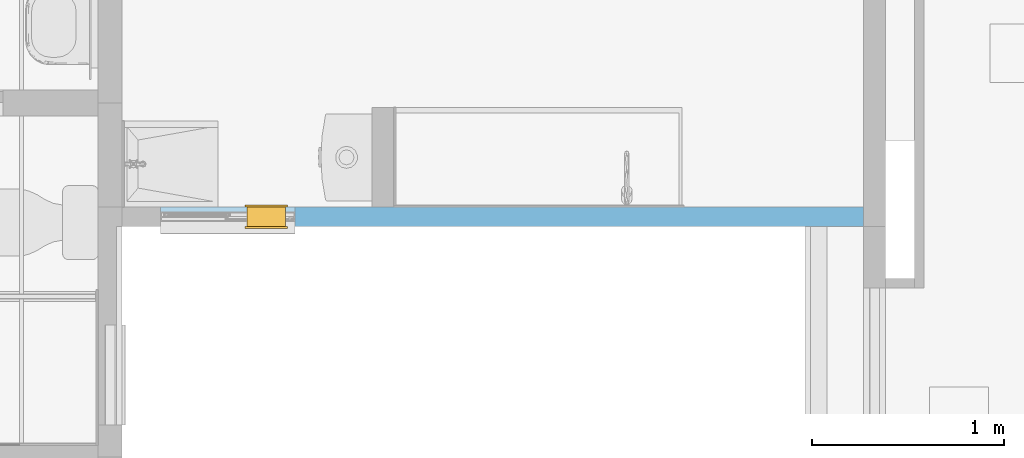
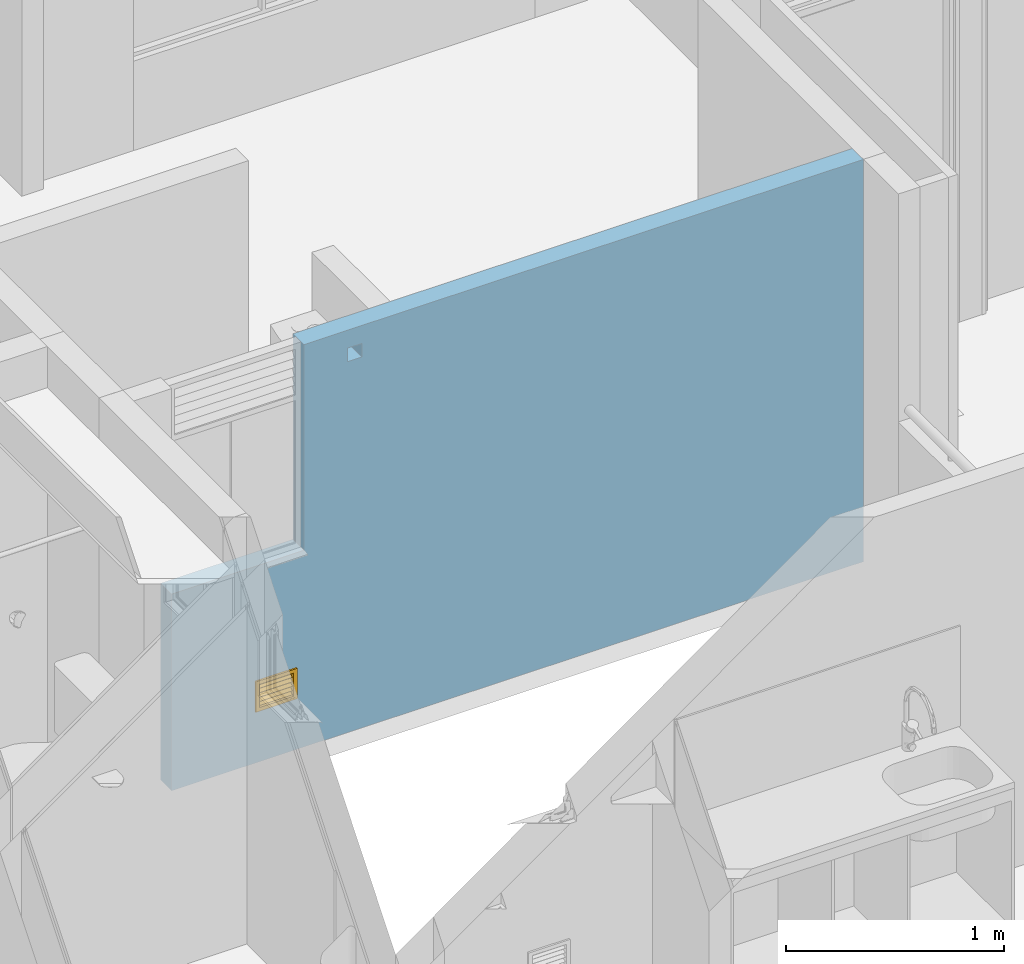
# One storey, part 10 of 51: 1 window, 3 openings, plus 1 element that does not belong to this part.
"""IFC4 building model written with IfcOpenShell, lengths in metres."""

import ifcopenshell
import ifcopenshell.guid

model = None  # the IFC model being written
_history = None  # IfcOwnerHistory: only IFC2X3 demands one
_inside = {}  # id of a spatial element -> (the spatial element, [elements in it])
_under = {}  # id of a project, library or spatial element -> (it, [spatial elements below it])
_declared = {}  # id of a project -> (the project, [libraries it declares])
_typed = {}  # id of a type object -> (the type object, [elements of that type])
_made_of = {}  # id of a material, layer set ... -> (it, [elements and type objects made of it])


def new_model(schema):
    """Start an empty IFC model of exactly this schema.

    Asked for "IFC4X3", IfcOpenShell would pick the latest addendum, in which some entities
    have other attributes; the version numbers below select the first issue.
    IFC2X3 requires an IfcOwnerHistory on every rooted entity: one is made here for all.
    """
    global model, _history
    if schema == "IFC4X3":
        model = ifcopenshell.file(schema_version=(4, 3, 0, 0))
    else:
        model = ifcopenshell.file(schema=schema)
    _inside.clear()
    _under.clear()
    _declared.clear()
    _typed.clear()
    _made_of.clear()
    _history = None
    if model.schema == "IFC2X3":
        org = make("IfcOrganization", Name="unknown")
        user = make(
            "IfcPersonAndOrganization",
            ThePerson=make("IfcPerson", FamilyName="unknown"),
            TheOrganization=org,
        )
        app = make(
            "IfcApplication",
            ApplicationDeveloper=org,
            Version="unknown",
            ApplicationFullName="unknown",
            ApplicationIdentifier="unknown",
        )
        _history = make(
            "IfcOwnerHistory",
            OwningUser=user,
            OwningApplication=app,
            ChangeAction="ADDED",
            CreationDate=0,
        )
    return model


def make(cls, **values):
    """One entity of the class cls with the attributes given. An attribute that is None is left unset."""
    return model.create_entity(
        cls, **{name: value for name, value in values.items() if value is not None}
    )


def entity(cls, *values):
    """Any entity or typed value of the class cls, its attributes in the order of the schema. None: left unset."""
    e = model.create_entity(cls)
    for i, value in enumerate(values):
        if value is not None:
            e[i] = value
    return e


def rooted(cls, **values):
    """An entity with a GlobalId (a new one), such as an element, a storey or a relation."""
    return make(cls, GlobalId=ifcopenshell.guid.new(), OwnerHistory=_history, **values)


def si_unit(unit_type, name, prefix=None):
    """IfcSIUnit, for example si_unit("LENGTHUNIT", "METRE", prefix="MILLI")."""
    return make("IfcSIUnit", UnitType=unit_type, Prefix=prefix, Name=name)


def converted_unit(unit_type, name, factor, base, dimensions=None, offset=None):
    """IfcConversionBasedUnit, such as the inch: factor (a typed value) times the base unit."""
    return make(
        "IfcConversionBasedUnit"
        if offset is None
        else "IfcConversionBasedUnitWithOffset",
        ConversionOffset=offset,
        Dimensions=None
        if dimensions is None
        else entity("IfcDimensionalExponents", *dimensions),
        UnitType=unit_type,
        Name=name,
        ConversionFactor=make(
            "IfcMeasureWithUnit", ValueComponent=factor, UnitComponent=base
        ),
    )


def derived_unit(unit_type, elements):
    """IfcDerivedUnit: a product of units, each with its exponent."""
    return make(
        "IfcDerivedUnit",
        Elements=[
            make("IfcDerivedUnitElement", Unit=unit, Exponent=power)
            for unit, power in elements
        ],
        UnitType=unit_type,
    )


def assignment(units):
    """IfcUnitAssignment: the units of a project."""
    return None if units is None else make("IfcUnitAssignment", Units=units)


def point(xyz):
    """IfcCartesianPoint."""
    return None if xyz is None else make("IfcCartesianPoint", Coordinates=xyz)


def direction(xyz):
    """IfcDirection."""
    return None if xyz is None else make("IfcDirection", DirectionRatios=xyz)


def frame(location, z_axis=None, x_axis=None):
    """IfcAxis2Placement3D, a coordinate frame: its origin and axes. An axis left out is left unset."""
    return make(
        "IfcAxis2Placement3D",
        Location=point(location),
        Axis=direction(z_axis),
        RefDirection=direction(x_axis),
    )


def origin():
    """The frame at (0, 0, 0) with its axes left unset."""
    return frame((0.0, 0.0, 0.0))


def place(relative_to, where):
    """IfcLocalPlacement: puts the frame where relative to a parent placement (None: the world)."""
    return make(
        "IfcLocalPlacement", PlacementRelTo=relative_to, RelativePlacement=where
    )


def context(
    kind, dimensions, precision=None, world=None, true_north=None, identifier=None
):
    """IfcGeometricRepresentationContext, for example the 3D "Model" context."""
    return make(
        "IfcGeometricRepresentationContext",
        ContextIdentifier=identifier,
        ContextType=kind,
        CoordinateSpaceDimension=dimensions,
        Precision=precision,
        WorldCoordinateSystem=world,
        TrueNorth=true_north,
    )


def subcontext(parent, identifier, kind, view, scale=None):
    """IfcGeometricRepresentationSubContext, for example "Body" below "Model"."""
    return make(
        "IfcGeometricRepresentationSubContext",
        ContextIdentifier=identifier,
        ContextType=kind,
        ParentContext=parent,
        TargetScale=scale,
        TargetView=view,
    )


def project(units=None, contexts=None):
    """IfcProject with its units and contexts."""
    return rooted(
        "IfcProject",
        Name="project",
        RepresentationContexts=contexts,
        UnitsInContext=assignment(units),
    )


def spatial(cls, under=None, at=None, **own):
    """A site, building, storey or space (cls), placed at a placement, below another one or the project."""
    s = rooted(cls, ObjectPlacement=at, **own)
    if under is not None:
        _under.setdefault(under.id(), (under, []))[1].append(s)
    return s


def point_list(points):
    """IfcCartesianPointList2D or 3D."""
    cls = (
        "IfcCartesianPointList2D" if len(points[0]) == 2 else "IfcCartesianPointList3D"
    )
    return make(cls, CoordList=points)


def indexed_curve(points, segments=None, self_intersect=None):
    """IfcIndexedPolyCurve: lines and arcs through numbered points (the first is 1)."""
    return make(
        "IfcIndexedPolyCurve",
        Points=point_list(points),
        Segments=segments,
        SelfIntersect=self_intersect,
    )


def outline(outer, holes=None, kind="AREA"):
    """IfcArbitraryClosedProfileDef: a profile drawn as a closed curve; with holes, ...WithVoids."""
    if holes is None:
        return make("IfcArbitraryClosedProfileDef", ProfileType=kind, OuterCurve=outer)
    return make(
        "IfcArbitraryProfileDefWithVoids",
        ProfileType=kind,
        OuterCurve=outer,
        InnerCurves=holes,
    )


def extrude(swept, where, along, depth):
    """IfcExtrudedAreaSolid: the profile swept, set in the frame where, extruded along a direction by depth."""
    return make(
        "IfcExtrudedAreaSolid",
        SweptArea=swept,
        Position=where,
        ExtrudedDirection=direction(along),
        Depth=depth,
    )


def polygons(points, faces, closed=None, point_numbers=None):
    """IfcPolygonalFaceSet: a face is its outer loop, then its inner loops; points numbered from 1."""
    made = []
    for loops in faces:
        if len(loops) == 1:
            made.append(make("IfcIndexedPolygonalFace", CoordIndex=loops[0]))
        else:
            made.append(
                make(
                    "IfcIndexedPolygonalFaceWithVoids",
                    CoordIndex=loops[0],
                    InnerCoordIndices=loops[1:],
                )
            )
    return make(
        "IfcPolygonalFaceSet",
        Coordinates=point_list(points),
        Closed=closed,
        Faces=made,
        PnIndex=point_numbers,
    )


def shape(context_of_items, identifier, shape_type, items):
    """IfcShapeRepresentation: the items that make up one representation, for example the "Body"."""
    return make(
        "IfcShapeRepresentation",
        ContextOfItems=context_of_items,
        RepresentationIdentifier=identifier,
        RepresentationType=shape_type,
        Items=items,
    )


def source(mapping_origin, context_of_items, identifier, shape_type, items):
    """IfcRepresentationMap: a shape defined once, which mapped items show again and again."""
    return make(
        "IfcRepresentationMap",
        MappingOrigin=mapping_origin,
        MappedRepresentation=shape(context_of_items, identifier, shape_type, items),
    )


def transform(
    local_origin,
    x_axis=None,
    y_axis=None,
    z_axis=None,
    scale=None,
    scale2=None,
    scale3=None,
    uniform=True,
):
    """IfcCartesianTransformationOperator3D, or its non-uniform kind. x_axis, y_axis, z_axis: its Axis1, 2, 3."""
    if uniform:
        return make(
            "IfcCartesianTransformationOperator3D",
            Axis1=direction(x_axis),
            Axis2=direction(y_axis),
            LocalOrigin=point(local_origin),
            Scale=scale,
            Axis3=direction(z_axis),
        )
    return make(
        "IfcCartesianTransformationOperator3DnonUniform",
        Axis1=direction(x_axis),
        Axis2=direction(y_axis),
        LocalOrigin=point(local_origin),
        Scale=scale,
        Axis3=direction(z_axis),
        Scale2=scale2,
        Scale3=scale3,
    )


def mapped(mapping_source, mapping_target):
    """IfcMappedItem: shows the shape of a source again, moved by a transform."""
    return make(
        "IfcMappedItem", MappingSource=mapping_source, MappingTarget=mapping_target
    )


def material(Name=None, Category=None):
    """IfcMaterial."""
    return make("IfcMaterial", Name=Name, Category=Category)


def constituent(of_material, Name=None, Category=None, fraction=None):
    """IfcMaterialConstituent: one of the materials an element consists of."""
    return make(
        "IfcMaterialConstituent",
        Name=Name,
        Material=of_material,
        Fraction=fraction,
        Category=Category,
    )


def constituent_set(constituents=None, Name=None):
    """IfcMaterialConstituentSet."""
    return make(
        "IfcMaterialConstituentSet", Name=Name, MaterialConstituents=constituents
    )


def made_of(thing, what):
    """Note that an element or type object is made of a material, layer set ...; save() writes the relation."""
    if what is not None:
        _made_of.setdefault(what.id(), (what, []))[1].append(thing)
    return thing


def type_object(cls, material=None, **own):
    """A type object (cls), such as IfcWallType, which elements share."""
    return made_of(rooted(cls, **own), material)


def type_shapes(of_type, sources):
    """Give a type object the sources (RepresentationMaps) that its elements show as mapped items."""
    of_type.RepresentationMaps = sources


def element(
    cls,
    number,
    at=None,
    inside=None,
    cuts=None,
    type_object=None,
    material=None,
    context=None,
    identifier="Body",
    shape_type=None,
    held_by="IfcProductDefinitionShape",
    body=None,
    shapes=None,
    **own,
):
    """One element of the class cls, such as IfcWall. Its Tag is "e" and its number.

    at: its placement. inside: the storey or other place that contains it. cuts: it is an
    opening in that element (IfcRelVoidsElement). A single representation is given by context,
    identifier, shape_type and body (its items); several are given by shapes. held_by: the class
    of the entity that holds the representations. save() writes the other relations.
    """
    e = rooted(cls, Tag="e%d" % number, ObjectPlacement=at, **own)
    if body is not None:
        shapes = [shape(context, identifier, shape_type, body)]
    if shapes is not None:
        e.Representation = make(held_by, Representations=shapes)
    if inside is not None:
        _inside.setdefault(inside.id(), (inside, []))[1].append(e)
    if cuts is not None:
        rooted(
            "IfcRelVoidsElement", RelatingBuildingElement=cuts, RelatedOpeningElement=e
        )
    if type_object is not None:
        _typed.setdefault(type_object.id(), (type_object, []))[1].append(e)
    return made_of(e, material)


def fill(opening, filler):
    """IfcRelFillsElement: the door or window that sits in an opening."""
    return rooted(
        "IfcRelFillsElement",
        RelatingOpeningElement=opening,
        RelatedBuildingElement=filler,
    )


def aggregate(whole, parts):
    """IfcRelAggregates: a whole, such as a stair, and the parts it consists of."""
    return rooted("IfcRelAggregates", RelatingObject=whole, RelatedObjects=parts)


def save(model, path):
    """Write the relations noted so far, then the file.

    IfcRelAggregates (storeys below a building ...), IfcRelContainedInSpatialStructure (elements
    in a storey), IfcRelDefinesByType, IfcRelAssociatesMaterial and IfcRelDeclares: one each for
    every whole, place, type object, material and project.
    """
    for whole, parts in _under.values():
        aggregate(whole, parts)
    for where, things in _inside.values():
        rooted(
            "IfcRelContainedInSpatialStructure",
            RelatedElements=things,
            RelatingStructure=where,
        )
    for kind, things in _typed.values():
        rooted("IfcRelDefinesByType", RelatedObjects=things, RelatingType=kind)
    for what, things in _made_of.values():
        rooted("IfcRelAssociatesMaterial", RelatedObjects=things, RelatingMaterial=what)
    for by, libraries in _declared.values():
        rooted("IfcRelDeclares", RelatingContext=by, RelatedDefinitions=libraries)
    model.write(path)


model = new_model("IFC4")

# Units and contexts
model_context = context("Model", 3, precision=1e-05, world=origin(), true_north=direction((6.123031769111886e-17, 1.0)))
body_context = subcontext(model_context, "Body", "Model", "MODEL_VIEW")
ifc_project = project(units=[si_unit("LENGTHUNIT", "METRE"), si_unit("AREAUNIT", "SQUARE_METRE"), si_unit("VOLUMEUNIT", "CUBIC_METRE"), converted_unit("PLANEANGLEUNIT", "DEGREE", entity("IfcRatioMeasure", 0.017453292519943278), si_unit("PLANEANGLEUNIT", "RADIAN"), dimensions=[0, 0, 0, 0, 0, 0, 0]), si_unit("MASSUNIT", "GRAM", prefix="KILO"), derived_unit("MASSDENSITYUNIT", [(si_unit("MASSUNIT", "GRAM", prefix="KILO"), 1), (si_unit("LENGTHUNIT", "METRE"), -3)]), derived_unit("IONCONCENTRATIONUNIT", [(si_unit("MASSUNIT", "GRAM", prefix="KILO"), 1), (si_unit("LENGTHUNIT", "METRE"), -3)]), derived_unit("MOMENTOFINERTIAUNIT", [(si_unit("LENGTHUNIT", "METRE"), 4)]), si_unit("TIMEUNIT", "SECOND"), si_unit("FREQUENCYUNIT", "HERTZ"), si_unit("THERMODYNAMICTEMPERATUREUNIT", "DEGREE_CELSIUS"), derived_unit("THERMALTRANSMITTANCEUNIT", [(si_unit("MASSUNIT", "GRAM", prefix="KILO"), 1), (si_unit("THERMODYNAMICTEMPERATUREUNIT", "KELVIN"), -1), (si_unit("TIMEUNIT", "SECOND"), -3)]), derived_unit("THERMALCONDUCTANCEUNIT", [(si_unit("MASSUNIT", "GRAM", prefix="KILO"), 1), (si_unit("THERMODYNAMICTEMPERATUREUNIT", "KELVIN"), -1), (si_unit("TIMEUNIT", "SECOND"), -3), (si_unit("LENGTHUNIT", "METRE"), 1)]), derived_unit("VOLUMETRICFLOWRATEUNIT", [(si_unit("LENGTHUNIT", "METRE"), 3), (si_unit("TIMEUNIT", "SECOND"), -1)]), derived_unit("MASSFLOWRATEUNIT", [(si_unit("MASSUNIT", "GRAM", prefix="KILO"), 1), (si_unit("TIMEUNIT", "SECOND"), -1)]), derived_unit("ROTATIONALFREQUENCYUNIT", [(si_unit("TIMEUNIT", "SECOND"), -1)]), si_unit("ELECTRICCURRENTUNIT", "AMPERE"), si_unit("ELECTRICVOLTAGEUNIT", "VOLT"), si_unit("POWERUNIT", "WATT"), si_unit("FORCEUNIT", "NEWTON", prefix="KILO"), si_unit("ILLUMINANCEUNIT", "LUX"), si_unit("LUMINOUSFLUXUNIT", "LUMEN"), si_unit("LUMINOUSINTENSITYUNIT", "CANDELA"), derived_unit("USERDEFINED", [(si_unit("MASSUNIT", "GRAM", prefix="KILO"), -1), (si_unit("LENGTHUNIT", "METRE"), -2), (si_unit("TIMEUNIT", "SECOND"), 3), (si_unit("LUMINOUSFLUXUNIT", "LUMEN"), 1)]), derived_unit("USERDEFINED", [(si_unit("MASSUNIT", "GRAM", prefix="KILO"), 1), (si_unit("TIMEUNIT", "SECOND"), -3), (si_unit("LENGTHUNIT", "METRE"), 3), (si_unit("ELECTRICCURRENTUNIT", "AMPERE"), -2)]), derived_unit("SOUNDPOWERUNIT", [(si_unit("MASSUNIT", "GRAM", prefix="KILO"), 1), (si_unit("TIMEUNIT", "SECOND"), -3), (si_unit("LENGTHUNIT", "METRE"), 2)]), derived_unit("SOUNDPRESSUREUNIT", [(si_unit("MASSUNIT", "GRAM", prefix="KILO"), 1), (si_unit("LENGTHUNIT", "METRE"), -1), (si_unit("TIMEUNIT", "SECOND"), -2)]), derived_unit("LINEARVELOCITYUNIT", [(si_unit("LENGTHUNIT", "METRE"), 1), (si_unit("TIMEUNIT", "SECOND"), -1)]), si_unit("PRESSUREUNIT", "PASCAL"), derived_unit("USERDEFINED", [(si_unit("MASSUNIT", "GRAM", prefix="KILO"), 1), (si_unit("LENGTHUNIT", "METRE"), -2), (si_unit("TIMEUNIT", "SECOND"), -2)]), derived_unit("LINEARFORCEUNIT", [(si_unit("MASSUNIT", "GRAM", prefix="KILO"), 1), (si_unit("TIMEUNIT", "SECOND"), -2)]), derived_unit("PLANARFORCEUNIT", [(si_unit("MASSUNIT", "GRAM", prefix="KILO"), 1), (si_unit("LENGTHUNIT", "METRE"), -1), (si_unit("TIMEUNIT", "SECOND"), -2)]), derived_unit("SPECIFICHEATCAPACITYUNIT", [(si_unit("THERMODYNAMICTEMPERATUREUNIT", "KELVIN"), -1), (si_unit("LENGTHUNIT", "METRE"), 2), (si_unit("TIMEUNIT", "SECOND"), -2)]), derived_unit("HEATINGVALUEUNIT", [(si_unit("LENGTHUNIT", "METRE"), 2), (si_unit("TIMEUNIT", "SECOND"), -2)]), derived_unit("VAPORPERMEABILITYUNIT", [(si_unit("LENGTHUNIT", "METRE"), -1), (si_unit("TIMEUNIT", "SECOND"), 1)]), derived_unit("DYNAMICVISCOSITYUNIT", [(si_unit("MASSUNIT", "GRAM", prefix="KILO"), 1), (si_unit("TIMEUNIT", "SECOND"), -1), (si_unit("LENGTHUNIT", "METRE"), -1)]), derived_unit("THERMALEXPANSIONCOEFFICIENTUNIT", [(si_unit("THERMODYNAMICTEMPERATUREUNIT", "KELVIN"), -1)]), derived_unit("MODULUSOFELASTICITYUNIT", [(si_unit("MASSUNIT", "GRAM", prefix="KILO"), 1), (si_unit("LENGTHUNIT", "METRE"), -1), (si_unit("TIMEUNIT", "SECOND"), -2)]), derived_unit("ISOTHERMALMOISTURECAPACITYUNIT", [(si_unit("LENGTHUNIT", "METRE"), 3), (si_unit("MASSUNIT", "GRAM", prefix="KILO"), -1)]), derived_unit("MOISTUREDIFFUSIVITYUNIT", [(si_unit("TIMEUNIT", "SECOND"), -1), (si_unit("LENGTHUNIT", "METRE"), 2)])], contexts=[model_context])

# Site, building, storey
site_placement = place(None, origin())
site = spatial("IfcSite", under=ifc_project, at=site_placement, Name="Default", CompositionType="ELEMENT")
building_placement = place(site_placement, origin())
building = spatial("IfcBuilding", under=site, at=building_placement, CompositionType="ELEMENT")
storey_placement = place(building_placement, frame((0.0, 0.0, 2.350000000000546)))
storey = spatial("IfcBuildingStorey", under=building, at=storey_placement, Name="Nivel 2", CompositionType="ELEMENT", Elevation=2.350000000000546)

# Wall, openings, window
ifc_material_1 = material(Name="PINTURA BLANCA PARA EXTERIORES", Category="Materials")
ifc_constituent_1 = constituent(ifc_material_1, Name="PINTURA BLANCA PARA EXTERIORES", Category="Materials")
ifc_material_2 = material(Name="Concreto (Aire)", Category="Materials")
ifc_constituent_2 = constituent(ifc_material_2, Name="Concreto (Aire)", Category="Materials")
ifc_constituent_set_1 = constituent_set(constituents=[ifc_constituent_1, ifc_constituent_2], Name="Basic Wall:B2010 - 0.10m - MI Concreto- Concreto+repello+ pintura blanca")
wall_type = type_object("IfcWallType", Name="Basic Wall:B2010 - 0.10m - MI Concreto- Concreto+repello+ pintura blanca", PredefinedType="STANDARD", material=ifc_constituent_set_1)
wall_placement = place(storey_placement, frame((7.947500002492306, -5.175000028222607, 0.0), z_axis=(0.0, 0.0, 1.0), x_axis=(-1.0, 0.0, 0.0)))
wall = element("IfcWall", 1, at=wall_placement, inside=storey, type_object=wall_type, material=ifc_constituent_set_1, Name="Basic Wall:B2010 - 0.10m - MI Concreto- Concreto+repello+ pintura blanca", ObjectType="Basic Wall:B2010 - 0.10m - MI Concreto- Concreto+repello+ pintura blanca", PredefinedType="NOTDEFINED", context=body_context, shape_type="SweptSolid", body=[
    extrude(outline(indexed_curve([(-0.8374999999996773, -1.943125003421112), (0.2624999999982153, -1.943125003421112), (0.2624999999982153, -1.2431250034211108), (1.4125000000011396, -1.2431250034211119), (1.4125000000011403, 1.716875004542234), (-0.8374999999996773, 1.716875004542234), (-0.8374999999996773, 1.5268750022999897), (-0.8374999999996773, 1.41187500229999), (-0.8374999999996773, -1.943125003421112)], self_intersect=False), holes=[indexed_curve([(-0.5374999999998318, -1.2931250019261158), (-0.38749999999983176, -1.2931250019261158), (-0.38749999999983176, -1.4931250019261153), (-0.5374999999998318, -1.4931250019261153), (-0.5374999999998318, -1.2931250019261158)], self_intersect=False), indexed_curve([(1.3125000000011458, -0.9368875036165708), (1.3125000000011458, -1.012887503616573), (1.236500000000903, -1.012887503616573), (1.236500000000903, -0.9368875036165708), (1.3125000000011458, -0.9368875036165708)], self_intersect=False)]), frame((1.7168750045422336, 0.050500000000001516, 0.837499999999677), z_axis=(0.0, -1.0, 0.0), x_axis=(0.0, 0.0, 1.0)), (0.0, 0.0, 1.0), 0.0010000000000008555),
    extrude(outline(indexed_curve([(-0.7533333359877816, -1.1333333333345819), (2.2066666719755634, -1.1333333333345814), (2.2066666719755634, 1.1166666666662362), (-1.4533333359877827, 1.1166666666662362), (-1.4533333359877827, 0.01666666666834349), (-0.7533333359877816, 0.01666666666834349), (-0.7533333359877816, -1.1333333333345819)], self_intersect=False), holes=[indexed_curve([(-0.4470958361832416, -1.0333333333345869), (-0.5230958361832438, -1.0333333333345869), (-0.5230958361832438, -0.9573333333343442), (-0.4470958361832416, -0.9573333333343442), (-0.4470958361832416, -1.0333333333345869)], self_intersect=False), indexed_curve([(-0.8033333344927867, 0.6666666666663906), (-1.0033333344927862, 0.6666666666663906), (-1.0033333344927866, 0.8166666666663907), (-0.8033333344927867, 0.8166666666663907), (-0.8033333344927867, 0.6666666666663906)], self_intersect=False)]), frame((2.2066666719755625, 0.04949999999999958, 1.1166666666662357), z_axis=(0.0, -1.0, 0.0), x_axis=(-1.0, 0.0, 0.0)), (0.0, 0.0, 1.0), 0.09999999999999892),
])
opening_1_placement = place(wall_placement, origin())
element("IfcOpeningElement", 2, at=opening_1_placement, cuts=wall, Name="Basic Wall:B2010 - 0.10m - MI Concreto- Concreto+repello+ pintura blanca", PredefinedType="OPENING", context=body_context, shape_type="SweptSolid", body=[
    extrude(outline(indexed_curve([(-0.03800000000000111, -0.038000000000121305), (0.03800000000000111, -0.038000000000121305), (0.03800000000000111, 0.038000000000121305), (-0.03800000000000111, 0.038000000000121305), (-0.03800000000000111, -0.038000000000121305)], self_intersect=False)), frame((2.6917625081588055, 0.05050000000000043, 2.1120000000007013), z_axis=(0.0, -1.0, 0.0), x_axis=(1.0, 0.0, 0.0)), (0.0, 0.0, 1.0), 0.10100000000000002),
])
opening_2_placement = place(wall_placement, frame((2.9600000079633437, -0.05050000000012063, 1.099999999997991)))
element("IfcOpeningElement", 3, at=opening_2_placement, cuts=wall, Name="B2020 - Ventana corrediza con rejilla - Aluminio+Vidrio:B2020 - 1.15 x 0.70 - Ventana corrediza con rejilla - Aluminio+Vidrio:1", PredefinedType="OPENING", context=body_context, shape_type="SweptSolid", body=[
    extrude(outline(indexed_curve([(0.0, 0.699999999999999), (0.0, 0.0), (1.1499999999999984, 0.0), (1.1499999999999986, 0.699999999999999), (0.0, 0.699999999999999)], self_intersect=False)), frame((0.0, 0.0, 0.0), z_axis=(0.0, 1.0, 0.0), x_axis=(0.0, 0.0, 1.0)), (0.0, 0.0, 1.0), 0.10100000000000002),
])
opening_3_placement = place(wall_placement, frame((3.2100000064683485, 0.05049999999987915, 0.299999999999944)))
opening_3 = element("IfcOpeningElement", 4, at=opening_3_placement, cuts=wall, Name="B2070 - Rejilla de ventilación - Aluminio:B2070 - 0.15m x 0.20m - Rejilla de ventilación - Aluminio:1", PredefinedType="OPENING", context=body_context, shape_type="SweptSolid", body=[
    extrude(outline(indexed_curve([(0.0, 0.19999999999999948), (0.0, 0.0), (0.15000000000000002, 0.0), (0.14999999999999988, 0.19999999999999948), (0.0, 0.19999999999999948)], self_intersect=False)), frame((0.0, 0.0, 0.0), z_axis=(0.0, -1.0, 0.0), x_axis=(0.0, 0.0, 1.0)), (0.0, 0.0, 1.0), 0.10100000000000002),
])
ifc_material_3 = material(Name="<Unnamed>")
ifc_constituent_3 = constituent(ifc_material_3, Name="<Unnamed>")
ifc_material_4 = material(Name="Rejilla plastica", Category="Materials")
ifc_constituent_4 = constituent(ifc_material_4, Name="Rejilla plastica", Category="Materials")
ifc_constituent_set_2 = constituent_set(constituents=[ifc_constituent_3, ifc_constituent_4])
ifc_constituent_5 = constituent(ifc_material_3, Name="<Unnamed>")
ifc_constituent_6 = constituent(ifc_material_4, Name="Rejilla plastica", Category="Materials")
ifc_constituent_set_3 = constituent_set(constituents=[ifc_constituent_5, ifc_constituent_6])
window_type = type_object("IfcWindowType", Name="B2070 - Rejilla de ventilación - Aluminio:B2070 - 0.15m x 0.20m - Rejilla de ventilación - Aluminio", PartitioningType="NOTDEFINED", PredefinedType="WINDOW", material=ifc_constituent_set_3)
shared_shape = source(origin(), body_context, "Body", "Tessellation", [
    polygons([(0.20000000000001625, -0.009499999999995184, 0.14999999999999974), (0.20000000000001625, -0.009499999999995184, 1.353583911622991e-16), (1.6327605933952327e-14, -0.009499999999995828, 1.353583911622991e-16), (1.6327605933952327e-14, -0.009499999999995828, 0.14999999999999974), (0.21000000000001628, -0.00949999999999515, 0.15999999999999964), (-0.009999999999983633, -0.00949999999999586, 0.15999999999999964), (-0.009999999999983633, -0.00949999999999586, -0.009999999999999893), (0.21000000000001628, -0.00949999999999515, -0.009999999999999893), (0.20000000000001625, 0.000499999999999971, 0.14999999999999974), (1.6293766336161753e-14, 0.000499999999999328, 0.14999999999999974), (1.6293766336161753e-14, 0.000499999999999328, 1.353583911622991e-16), (0.20000000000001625, 0.000499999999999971, 1.353583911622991e-16), (0.21000000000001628, 0.0005000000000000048, 0.15999999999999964), (0.21000000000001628, 0.0005000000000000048, -0.009999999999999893), (-0.009999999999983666, 0.0004999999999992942, -0.009999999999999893), (-0.009999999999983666, 0.0004999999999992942, 0.15999999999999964)], [[[5, 6, 7, 8], [1, 2, 3, 4]], [[13, 14, 15, 16], [9, 10, 11, 12]], [[4, 10, 9, 1]], [[3, 11, 10, 4]], [[2, 12, 11, 3]], [[1, 9, 12, 2]], [[8, 14, 13, 5]], [[7, 15, 14, 8]], [[6, 16, 15, 7]], [[5, 13, 16, 6]]], closed=True),
    polygons([(0.01000000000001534, -0.008999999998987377, 0.010000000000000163), (0.010000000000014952, 0.11100000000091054, 0.010000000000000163), (0.010000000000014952, 0.11100000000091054, 0.1399999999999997), (0.01000000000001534, -0.008999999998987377, 0.1399999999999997), (0.1900000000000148, -0.008999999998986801, 0.010000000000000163), (0.19000000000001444, 0.11100000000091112, 0.010000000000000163), (0.1900000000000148, -0.008999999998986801, 0.1399999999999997), (0.19000000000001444, 0.11100000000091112, 0.1399999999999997), (0.20000000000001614, -0.00899999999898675, 0.0), (0.20000000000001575, 0.1009999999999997, 0.0), (0.20000000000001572, 0.1009999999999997, 0.1499999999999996), (0.20000000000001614, -0.00899999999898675, 0.1499999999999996), (1.6158407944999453e-14, -0.00899999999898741, 0.0), (1.578617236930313e-14, 0.10100000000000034, 0.0), (1.6158407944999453e-14, -0.00899999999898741, 0.1499999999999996), (1.578617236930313e-14, 0.10100000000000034, 0.1499999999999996), (0.21000000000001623, 0.11100000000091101, 0.15999999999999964), (0.21000000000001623, 0.11100000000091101, -0.009999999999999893), (-0.009999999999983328, 0.11100000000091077, -0.009999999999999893), (-0.009999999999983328, 0.11100000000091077, 0.15999999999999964), (-0.009999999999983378, 0.10100000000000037, -0.009999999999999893), (-0.009999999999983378, 0.10100000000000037, 0.15999999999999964), (0.21000000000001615, 0.10099999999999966, -0.009999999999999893), (0.21000000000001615, 0.10099999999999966, 0.15999999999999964)], [[[1, 2, 3, 4]], [[5, 6, 2, 1]], [[7, 8, 6, 5]], [[9, 10, 11, 12]], [[13, 14, 10, 9]], [[15, 16, 14, 13]], [[17, 18, 19, 20], [8, 3, 2, 6]], [[19, 21, 22, 20]], [[18, 23, 21, 19]], [[17, 24, 23, 18]], [[24, 22, 21, 23], [10, 14, 16, 11]], [[20, 22, 24, 17]], [[12, 11, 16, 15]], [[4, 3, 8, 7]], [[12, 15, 13, 9], [7, 5, 1, 4]]], closed=True),
    polygons([(0.010000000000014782, 0.07737500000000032, 0.01859580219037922), (0.010000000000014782, 0.08147076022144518, 0.021463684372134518), (0.010000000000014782, 0.10079730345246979, 0.013344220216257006), (0.010000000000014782, 0.09670154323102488, 0.010476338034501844), (0.1900000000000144, 0.07737500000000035, 0.01859580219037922), (0.1900000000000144, 0.09670154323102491, 0.010476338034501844), (0.1900000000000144, 0.10079730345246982, 0.013344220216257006), (0.1900000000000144, 0.0814707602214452, 0.021463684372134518)], [[[1, 2, 3, 4]], [[5, 6, 7, 8]], [[4, 6, 5, 1]], [[3, 7, 6, 4]], [[2, 8, 7, 3]], [[1, 5, 8, 2]]], closed=True),
    polygons([(0.010000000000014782, 0.09670154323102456, 0.12735133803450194), (0.1900000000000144, 0.0967015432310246, 0.12735133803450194), (0.1900000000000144, 0.07737500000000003, 0.13547080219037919), (0.010000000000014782, 0.07737500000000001, 0.13547080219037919), (0.010000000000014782, 0.10079730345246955, 0.13021922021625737), (0.1900000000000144, 0.10079730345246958, 0.13021922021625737), (0.010000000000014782, 0.08147076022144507, 0.13833868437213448), (0.1900000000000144, 0.0814707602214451, 0.13833868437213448)], [[[1, 2, 3, 4]], [[5, 6, 2, 1]], [[7, 8, 6, 5]], [[4, 3, 8, 7]], [[3, 2, 6, 8]], [[4, 7, 5, 1]]], closed=True),
    polygons([(0.010000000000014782, 0.0967015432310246, 0.10797633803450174), (0.1900000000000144, 0.09670154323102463, 0.10797633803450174), (0.1900000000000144, 0.0773750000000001, 0.11609580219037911), (0.010000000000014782, 0.07737500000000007, 0.11609580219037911), (0.010000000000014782, 0.10079730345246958, 0.11084422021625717), (0.1900000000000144, 0.10079730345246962, 0.11084422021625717), (0.010000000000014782, 0.08147076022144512, 0.11896368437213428), (0.1900000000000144, 0.08147076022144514, 0.11896368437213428)], [[[1, 2, 3, 4]], [[5, 6, 2, 1]], [[7, 8, 6, 5]], [[4, 3, 8, 7]], [[3, 2, 6, 8]], [[4, 7, 5, 1]]], closed=True),
    polygons([(0.010000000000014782, 0.09670154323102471, 0.08297633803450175), (0.1900000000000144, 0.09670154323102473, 0.08297633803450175), (0.1900000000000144, 0.07737500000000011, 0.09109580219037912), (0.010000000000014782, 0.0773750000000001, 0.09109580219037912), (0.010000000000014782, 0.10079730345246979, 0.0858442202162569), (0.1900000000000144, 0.10079730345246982, 0.0858442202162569), (0.010000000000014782, 0.08147076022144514, 0.09396368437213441), (0.1900000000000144, 0.08147076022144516, 0.09396368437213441)], [[[1, 2, 3, 4]], [[5, 6, 2, 1]], [[7, 8, 6, 5]], [[4, 3, 8, 7]], [[3, 2, 6, 8]], [[4, 7, 5, 1]]], closed=True),
    polygons([(0.010000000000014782, 0.09670154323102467, 0.05797633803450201), (0.1900000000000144, 0.09670154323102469, 0.05797633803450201), (0.1900000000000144, 0.07737500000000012, 0.06609580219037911), (0.010000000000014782, 0.07737500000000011, 0.06609580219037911), (0.010000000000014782, 0.10079730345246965, 0.06084422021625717), (0.1900000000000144, 0.10079730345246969, 0.06084422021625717), (0.010000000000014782, 0.0814707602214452, 0.06896368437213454), (0.1900000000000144, 0.08147076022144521, 0.06896368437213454)], [[[1, 2, 3, 4]], [[5, 6, 2, 1]], [[7, 8, 6, 5]], [[4, 3, 8, 7]], [[3, 2, 6, 8]], [[4, 7, 5, 1]]], closed=True),
    polygons([(0.010000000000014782, 0.0967015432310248, 0.032976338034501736), (0.1900000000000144, 0.09670154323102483, 0.032976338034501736), (0.1900000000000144, 0.07737500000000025, 0.041095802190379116), (0.010000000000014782, 0.07737500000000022, 0.041095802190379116), (0.010000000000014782, 0.10079730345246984, 0.03584422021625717), (0.1900000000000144, 0.10079730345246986, 0.03584422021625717), (0.010000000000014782, 0.08147076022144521, 0.04396368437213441), (0.1900000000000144, 0.08147076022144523, 0.04396368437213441)], [[[1, 2, 3, 4]], [[5, 6, 2, 1]], [[7, 8, 6, 5]], [[4, 3, 8, 7]], [[3, 2, 6, 8]], [[4, 7, 5, 1]]], closed=True),
    polygons([(0.010000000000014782, 0.01952923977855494, 0.13833868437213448), (0.1900000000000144, 0.019529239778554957, 0.13833868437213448), (0.1900000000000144, 0.02362500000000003, 0.13547080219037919), (0.0100000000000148, 0.023625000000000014, 0.13547080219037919), (0.010000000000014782, 0.0002026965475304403, 0.13021922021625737), (0.1900000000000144, 0.0002026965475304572, 0.13021922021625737), (0.010000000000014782, 0.004298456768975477, 0.12735133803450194), (0.1900000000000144, 0.004298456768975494, 0.12735133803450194)], [[[1, 2, 3, 4]], [[5, 6, 2, 1]], [[7, 8, 6, 5]], [[4, 3, 8, 7]], [[3, 2, 6, 8]], [[4, 7, 5, 1]]], closed=True),
    polygons([(0.010000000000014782, 0.019529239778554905, 0.11896368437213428), (0.1900000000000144, 0.019529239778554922, 0.11896368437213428), (0.1900000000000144, 0.023624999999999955, 0.11609580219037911), (0.0100000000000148, 0.023624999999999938, 0.11609580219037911), (0.010000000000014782, 0.00020269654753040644, 0.11084422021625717), (0.1900000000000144, 0.00020269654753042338, 0.11084422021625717), (0.010000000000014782, 0.004298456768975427, 0.10797633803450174), (0.1900000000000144, 0.0042984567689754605, 0.10797633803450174)], [[[1, 2, 3, 4]], [[5, 6, 2, 1]], [[7, 8, 6, 5]], [[4, 3, 8, 7]], [[3, 2, 6, 8]], [[4, 7, 5, 1]]], closed=True),
    polygons([(0.010000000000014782, 0.01952923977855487, 0.09396368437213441), (0.1900000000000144, 0.0195292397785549, 0.09396368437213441), (0.1900000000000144, 0.023624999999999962, 0.09109580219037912), (0.0100000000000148, 0.02362499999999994, 0.09109580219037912), (0.010000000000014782, 0.00020269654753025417, 0.0858442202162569), (0.1900000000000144, 0.0002026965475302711, 0.0858442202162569), (0.010000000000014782, 0.004298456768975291, 0.08297633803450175), (0.1900000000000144, 0.004298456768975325, 0.08297633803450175)], [[[1, 2, 3, 4]], [[5, 6, 2, 1]], [[7, 8, 6, 5]], [[4, 3, 8, 7]], [[3, 2, 6, 8]], [[4, 7, 5, 1]]], closed=True),
    polygons([(0.010000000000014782, 0.019529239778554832, 0.06896368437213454), (0.1900000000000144, 0.019529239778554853, 0.06896368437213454), (0.1900000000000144, 0.02362499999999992, 0.06609580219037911), (0.0100000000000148, 0.023624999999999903, 0.06609580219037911), (0.010000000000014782, 0.0002026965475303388, 0.06084422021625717), (0.1900000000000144, 0.0002026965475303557, 0.06084422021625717), (0.010000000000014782, 0.0042984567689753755, 0.05797633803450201), (0.1900000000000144, 0.004298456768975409, 0.05797633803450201)], [[[1, 2, 3, 4]], [[5, 6, 2, 1]], [[7, 8, 6, 5]], [[4, 3, 8, 7]], [[3, 2, 6, 8]], [[4, 7, 5, 1]]], closed=True),
    polygons([(0.010000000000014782, 0.019529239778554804, 0.04396368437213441), (0.1900000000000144, 0.01952923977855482, 0.04396368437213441), (0.1900000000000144, 0.023624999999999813, 0.041095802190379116), (0.0100000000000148, 0.023624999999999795, 0.041095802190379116), (0.010000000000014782, 0.00020269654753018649, 0.03584422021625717), (0.1900000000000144, 0.00020269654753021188, 0.03584422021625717), (0.010000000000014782, 0.004298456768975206, 0.032976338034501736), (0.1900000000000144, 0.00429845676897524, 0.032976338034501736)], [[[1, 2, 3, 4]], [[5, 6, 2, 1]], [[7, 8, 6, 5]], [[4, 3, 8, 7]], [[3, 2, 6, 8]], [[4, 7, 5, 1]]], closed=True),
    polygons([(0.010000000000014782, 0.01952923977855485, 0.021463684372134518), (0.1900000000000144, 0.019529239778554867, 0.021463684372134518), (0.1900000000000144, 0.023624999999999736, 0.01859580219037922), (0.0100000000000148, 0.02362499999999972, 0.01859580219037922), (0.010000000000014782, 0.00020269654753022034, 0.013344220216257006), (0.1900000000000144, 0.00020269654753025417, 0.013344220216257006), (0.010000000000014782, 0.004298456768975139, 0.010476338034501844), (0.1900000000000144, 0.004298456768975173, 0.010476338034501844)], [[[1, 2, 3, 4]], [[5, 6, 2, 1]], [[7, 8, 6, 5]], [[4, 3, 8, 7]], [[3, 2, 6, 8]], [[4, 7, 5, 1]]], closed=True),
])
type_shapes(window_type, [shared_shape])
window_placement = place(opening_3_placement, frame((0.0, 0.0, 0.0), z_axis=(0.0, 0.0, 1.0), x_axis=(-1.0, 0.0, 0.0)))
window = element("IfcWindow", 5, at=window_placement, inside=storey, type_object=window_type, material=ifc_constituent_set_2, Name="B2070 - Rejilla de ventilación - Aluminio:B2070 - 0.15m x 0.20m - Rejilla de ventilación - Aluminio", ObjectType="B2070 - Rejilla de ventilación - Aluminio:B2070 - 0.15m x 0.20m - Rejilla de ventilación - Aluminio", OverallHeight=0.15000000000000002, OverallWidth=0.19999999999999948, PartitioningType="NOTDEFINED", PredefinedType="WINDOW", context=body_context, shape_type="MappedRepresentation", body=[
    mapped(shared_shape, transform((0.0, 0.0, 0.0), scale=1.0)),
])
fill(opening_3, window)

save(model, "model.ifc")
